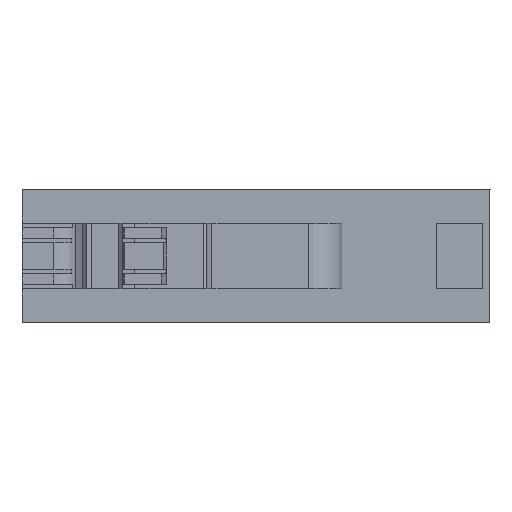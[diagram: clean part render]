
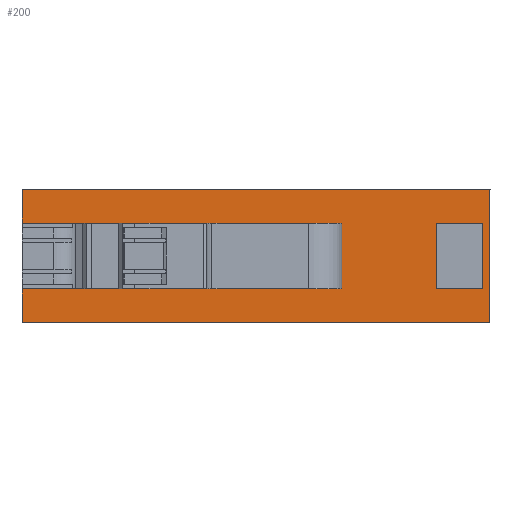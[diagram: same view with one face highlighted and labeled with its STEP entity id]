
A CAD part, front view. The second image highlights one B-rep face of the part: STEP entity #200.
In plain terms, the highlighted planar face has unit normal (0, -1, 0).
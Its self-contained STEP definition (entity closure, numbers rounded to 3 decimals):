
#187=FACE_BOUND('',#571,.T.);
#188=FACE_BOUND('',#572,.T.);
#200=ADVANCED_FACE('',(#187,#188),#333,.T.);
#333=PLANE('',#2752);
#571=EDGE_LOOP('',(#718,#719,#720,#721,#722,#723,#724,#725));
#572=EDGE_LOOP('',(#726,#727,#728,#729));
#718=ORIENTED_EDGE('',*,*,#1728,.F.);
#719=ORIENTED_EDGE('',*,*,#1729,.F.);
#720=ORIENTED_EDGE('',*,*,#1730,.F.);
#721=ORIENTED_EDGE('',*,*,#1731,.F.);
#722=ORIENTED_EDGE('',*,*,#1732,.T.);
#723=ORIENTED_EDGE('',*,*,#1733,.F.);
#724=ORIENTED_EDGE('',*,*,#1734,.F.);
#725=ORIENTED_EDGE('',*,*,#1735,.T.);
#726=ORIENTED_EDGE('',*,*,#1736,.T.);
#727=ORIENTED_EDGE('',*,*,#1737,.F.);
#728=ORIENTED_EDGE('',*,*,#1738,.F.);
#729=ORIENTED_EDGE('',*,*,#1739,.T.);
#1474=VERTEX_POINT('',#3653);
#1475=VERTEX_POINT('',#3654);
#1476=VERTEX_POINT('',#3656);
#1477=VERTEX_POINT('',#3658);
#1478=VERTEX_POINT('',#3660);
#1479=VERTEX_POINT('',#3662);
#1480=VERTEX_POINT('',#3664);
#1481=VERTEX_POINT('',#3666);
#1482=VERTEX_POINT('',#3669);
#1483=VERTEX_POINT('',#3670);
#1484=VERTEX_POINT('',#3672);
#1485=VERTEX_POINT('',#3674);
#1728=EDGE_CURVE('',#1474,#1475,#2106,.T.);
#1729=EDGE_CURVE('',#1476,#1474,#2107,.T.);
#1730=EDGE_CURVE('',#1477,#1476,#2108,.T.);
#1731=EDGE_CURVE('',#1478,#1477,#2109,.T.);
#1732=EDGE_CURVE('',#1478,#1479,#2110,.T.);
#1733=EDGE_CURVE('',#1480,#1479,#2111,.T.);
#1734=EDGE_CURVE('',#1481,#1480,#2112,.T.);
#1735=EDGE_CURVE('',#1481,#1475,#2113,.T.);
#1736=EDGE_CURVE('',#1482,#1483,#2114,.T.);
#1737=EDGE_CURVE('',#1484,#1483,#2115,.T.);
#1738=EDGE_CURVE('',#1485,#1484,#2116,.T.);
#1739=EDGE_CURVE('',#1485,#1482,#2117,.T.);
#2106=LINE('',#3652,#2432);
#2107=LINE('',#3655,#2433);
#2108=LINE('',#3657,#2434);
#2109=LINE('',#3659,#2435);
#2110=LINE('',#3661,#2436);
#2111=LINE('',#3663,#2437);
#2112=LINE('',#3665,#2438);
#2113=LINE('',#3667,#2439);
#2114=LINE('',#3668,#2440);
#2115=LINE('',#3671,#2441);
#2116=LINE('',#3673,#2442);
#2117=LINE('',#3675,#2443);
#2432=VECTOR('',#2948,1.);
#2433=VECTOR('',#2949,1.);
#2434=VECTOR('',#2950,1.);
#2435=VECTOR('',#2951,1.);
#2436=VECTOR('',#2952,1.);
#2437=VECTOR('',#2953,1.);
#2438=VECTOR('',#2954,1.);
#2439=VECTOR('',#2955,1.);
#2440=VECTOR('',#2956,1.);
#2441=VECTOR('',#2957,1.);
#2442=VECTOR('',#2958,1.);
#2443=VECTOR('',#2959,1.);
#2752=AXIS2_PLACEMENT_3D('',#3676,#2960,#2961);
#2948=DIRECTION('',(1.,0.,0.));
#2949=DIRECTION('',(0.,0.,1.));
#2950=DIRECTION('',(-1.,0.,0.));
#2951=DIRECTION('',(0.,0.,1.));
#2952=DIRECTION('',(-1.,0.,0.));
#2953=DIRECTION('',(0.,0.,1.));
#2954=DIRECTION('',(-1.,0.,0.));
#2955=DIRECTION('',(0.,0.,1.));
#2956=DIRECTION('',(0.,0.,1.));
#2957=DIRECTION('',(-1.,0.,0.));
#2958=DIRECTION('',(0.,0.,1.));
#2959=DIRECTION('',(-1.,0.,0.));
#2960=DIRECTION('',(0.,-1.,0.));
#2961=DIRECTION('',(0.,0.,-1.));
#3652=CARTESIAN_POINT('',(42.05,8.1,0.));
#3653=CARTESIAN_POINT('',(0.,8.1,0.));
#3654=CARTESIAN_POINT('',(42.7,8.1,0.));
#3655=CARTESIAN_POINT('',(0.,8.1,-40.));
#3656=CARTESIAN_POINT('',(0.,8.1,-3.1));
#3657=CARTESIAN_POINT('',(74.637,8.1,-3.1));
#3658=CARTESIAN_POINT('',(26.557,8.1,-3.1));
#3659=CARTESIAN_POINT('',(26.557,8.1,-40.));
#3660=CARTESIAN_POINT('',(26.557,8.1,-9.1));
#3661=CARTESIAN_POINT('',(74.637,8.1,-9.1));
#3662=CARTESIAN_POINT('',(0.,8.1,-9.1));
#3663=CARTESIAN_POINT('',(0.,8.1,-40.));
#3664=CARTESIAN_POINT('',(0.,8.1,-12.2));
#3665=CARTESIAN_POINT('',(74.637,8.1,-12.2));
#3666=CARTESIAN_POINT('',(42.7,8.1,-12.2));
#3667=CARTESIAN_POINT('',(42.7,8.1,-40.));
#3668=CARTESIAN_POINT('',(37.85,8.1,-40.));
#3669=CARTESIAN_POINT('',(37.85,8.1,-9.1));
#3670=CARTESIAN_POINT('',(37.85,8.1,-3.1));
#3671=CARTESIAN_POINT('',(74.637,8.1,-3.1));
#3672=CARTESIAN_POINT('',(42.05,8.1,-3.1));
#3673=CARTESIAN_POINT('',(42.05,8.1,-40.));
#3674=CARTESIAN_POINT('',(42.05,8.1,-9.1));
#3675=CARTESIAN_POINT('',(74.637,8.1,-9.1));
#3676=CARTESIAN_POINT('',(42.05,8.1,-40.));
